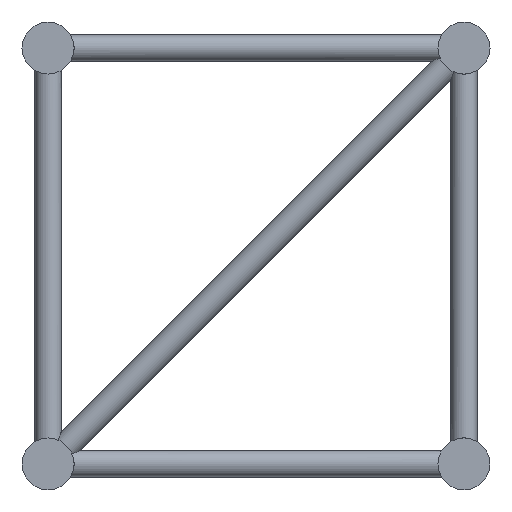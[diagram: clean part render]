
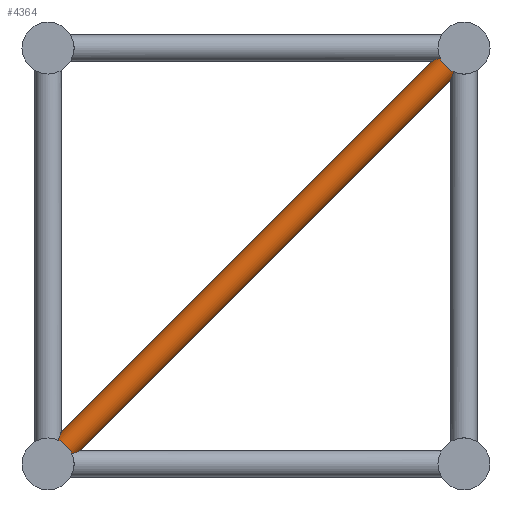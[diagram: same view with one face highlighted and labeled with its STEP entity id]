
A CAD part, left-side view. The second image highlights one B-rep face of the part: STEP entity #4364.
In plain terms, the highlighted cylindrical face has radius 15 mm (diameter 30 mm), a full revolution.
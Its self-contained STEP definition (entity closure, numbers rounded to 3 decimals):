
#182=FACE_BOUND('',#686,.T.);
#324=CYLINDRICAL_SURFACE('',#4654,15.);
#403=FACE_OUTER_BOUND('',#685,.T.);
#685=EDGE_LOOP('',(#2692,#2693,#2694,#2695));
#686=EDGE_LOOP('',(#2696,#2697,#2698,#2699));
#1108=CIRCLE('',#4650,15.);
#1109=CIRCLE('',#4653,15.);
#1110=CIRCLE('',#4656,15.);
#1111=CIRCLE('',#4658,15.);
#1584=ELLIPSE('',#4655,39.197,15.);
#1585=ELLIPSE('',#4657,39.197,15.);
#1586=ELLIPSE('',#4659,39.197,15.);
#1587=ELLIPSE('',#4660,39.197,15.);
#1701=VERTEX_POINT('',#6634);
#1703=VERTEX_POINT('',#6638);
#1704=VERTEX_POINT('',#6640);
#1707=VERTEX_POINT('',#6646);
#1708=VERTEX_POINT('',#6650);
#1709=VERTEX_POINT('',#6651);
#1710=VERTEX_POINT('',#6653);
#1711=VERTEX_POINT('',#6655);
#2095=EDGE_CURVE('',#1703,#1704,#1108,.T.);
#2099=EDGE_CURVE('',#1707,#1701,#1109,.T.);
#2100=EDGE_CURVE('',#1708,#1709,#1584,.T.);
#2101=EDGE_CURVE('',#1710,#1708,#1110,.T.);
#2102=EDGE_CURVE('',#1711,#1710,#1585,.T.);
#2103=EDGE_CURVE('',#1709,#1711,#1111,.T.);
#2104=EDGE_CURVE('',#1701,#1703,#1586,.T.);
#2105=EDGE_CURVE('',#1704,#1707,#1587,.T.);
#2692=ORIENTED_EDGE('',*,*,#2100,.F.);
#2693=ORIENTED_EDGE('',*,*,#2101,.F.);
#2694=ORIENTED_EDGE('',*,*,#2102,.F.);
#2695=ORIENTED_EDGE('',*,*,#2103,.F.);
#2696=ORIENTED_EDGE('',*,*,#2104,.F.);
#2697=ORIENTED_EDGE('',*,*,#2099,.F.);
#2698=ORIENTED_EDGE('',*,*,#2105,.F.);
#2699=ORIENTED_EDGE('',*,*,#2095,.F.);
#4364=ADVANCED_FACE('',(#403,#182),#324,.T.);
#4650=AXIS2_PLACEMENT_3D('',#6641,#5274,#5275);
#4653=AXIS2_PLACEMENT_3D('',#6648,#5281,#5282);
#4654=AXIS2_PLACEMENT_3D('',#6649,#5283,#5284);
#4655=AXIS2_PLACEMENT_3D('',#6652,#5285,#5286);
#4656=AXIS2_PLACEMENT_3D('',#6654,#5287,#5288);
#4657=AXIS2_PLACEMENT_3D('',#6656,#5289,#5290);
#4658=AXIS2_PLACEMENT_3D('',#6657,#5291,#5292);
#4659=AXIS2_PLACEMENT_3D('',#6658,#5293,#5294);
#4660=AXIS2_PLACEMENT_3D('',#6659,#5295,#5296);
#5274=DIRECTION('center_axis',(0.,0.707,-0.707));
#5275=DIRECTION('ref_axis',(0.,0.707,0.707));
#5281=DIRECTION('center_axis',(0.,0.707,-0.707));
#5282=DIRECTION('ref_axis',(0.,0.707,0.707));
#5283=DIRECTION('center_axis',(0.,-0.707,
0.707));
#5284=DIRECTION('ref_axis',(0.,0.707,0.707));
#5285=DIRECTION('center_axis',(0.,0.383,
0.924));
#5286=DIRECTION('ref_axis',(0.,0.924,-0.383));
#5287=DIRECTION('center_axis',(0.,-0.707,
0.707));
#5288=DIRECTION('ref_axis',(0.,0.707,0.707));
#5289=DIRECTION('center_axis',(0.,-0.924,
-0.383));
#5290=DIRECTION('ref_axis',(0.,-0.383,0.924));
#5291=DIRECTION('center_axis',(0.,-0.707,
0.707));
#5292=DIRECTION('ref_axis',(0.,0.707,0.707));
#5293=DIRECTION('center_axis',(0.,-0.383,
-0.924));
#5294=DIRECTION('ref_axis',(0.,0.924,-0.383));
#5295=DIRECTION('center_axis',(0.,0.924,0.383));
#5296=DIRECTION('ref_axis',(0.,-0.383,0.924));
#6634=CARTESIAN_POINT('',(105.852,445.,-459.645));
#6638=CARTESIAN_POINT('',(84.148,445.,-459.645));
#6640=CARTESIAN_POINT('',(84.148,459.645,-445.));
#6641=CARTESIAN_POINT('Origin',(95.,452.322,-452.322));
#6646=CARTESIAN_POINT('',(105.852,459.645,-445.));
#6648=CARTESIAN_POINT('Origin',(95.,452.322,-452.322));
#6649=CARTESIAN_POINT('Origin',(95.,452.322,-452.322));
#6650=CARTESIAN_POINT('',(105.852,25.,-10.355));
#6651=CARTESIAN_POINT('',(84.148,25.,-10.355));
#6652=CARTESIAN_POINT('Origin',(95.,0.,0.));
#6653=CARTESIAN_POINT('',(105.852,10.355,-25.));
#6654=CARTESIAN_POINT('Origin',(95.,17.678,-17.678));
#6655=CARTESIAN_POINT('',(84.148,10.355,-25.));
#6656=CARTESIAN_POINT('Origin',(95.,0.,0.));
#6657=CARTESIAN_POINT('Origin',(95.,17.678,-17.678));
#6658=CARTESIAN_POINT('Origin',(95.,470.,-470.));
#6659=CARTESIAN_POINT('Origin',(95.,470.,-470.));
